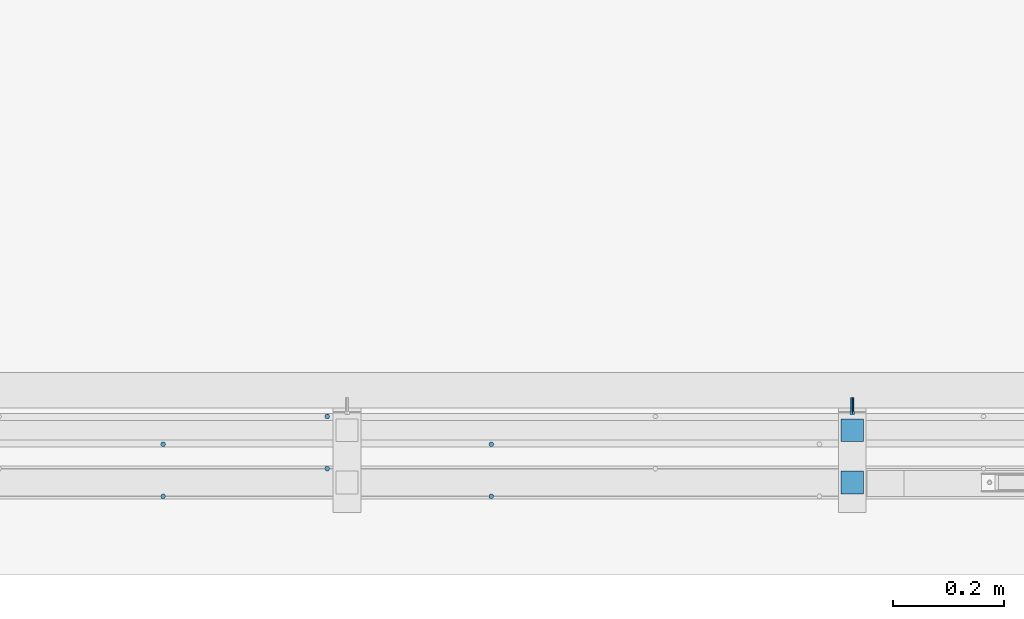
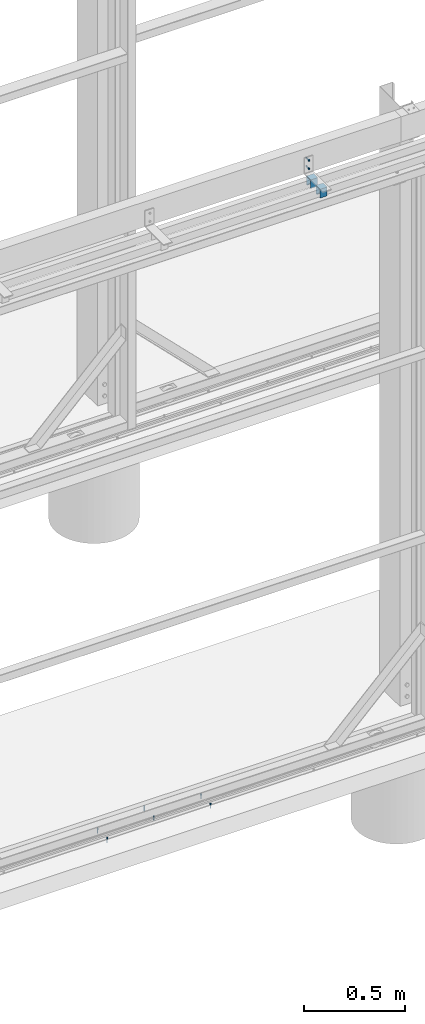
# One storey, part 43 of 91: 7 mechanical fasteners, 2 discrete accessories, 3 elements without a shape of their own.
"""IFC2X3 building model written with IfcOpenShell, lengths in millimetres."""

from ifc_helpers import new_model, si_unit, frame, origin_with_axes, origin_2d_with_axis, place, context, subcontext, project, spatial, polyline, circle, c_section, outline, extrude, source, transform, mapped, material, type_object, element, aggregate, save


model = new_model("IFC2X3")

# Units and contexts
model_context = context("Model", 3, precision=1e-05, world=origin_with_axes())
body_context = subcontext(model_context, "Body", "Model", "MODEL_VIEW")
ifc_project = project(units=[si_unit("LENGTHUNIT", "METRE", prefix="MILLI"), si_unit("AREAUNIT", "SQUARE_METRE"), si_unit("VOLUMEUNIT", "CUBIC_METRE"), si_unit("MASSUNIT", "GRAM", prefix="KILO"), si_unit("TIMEUNIT", "SECOND"), si_unit("PLANEANGLEUNIT", "RADIAN"), si_unit("SOLIDANGLEUNIT", "STERADIAN"), si_unit("THERMODYNAMICTEMPERATUREUNIT", "DEGREE_CELSIUS"), si_unit("LUMINOUSINTENSITYUNIT", "LUMEN")], contexts=[model_context])

# Site, building, storey
site_placement = place(None, origin_with_axes())
site = spatial("IfcSite", under=ifc_project, at=site_placement, Name="Undefined", CompositionType="ELEMENT")
building_placement = place(site_placement, origin_with_axes())
building = spatial("IfcBuilding", under=site, at=building_placement, Name="Undefined", CompositionType="ELEMENT")
storey_placement = place(building_placement, origin_with_axes())
storey = spatial("IfcBuildingStorey", under=building, at=storey_placement, Name="Undefined", CompositionType="ELEMENT", Elevation=0.0)

# Assembly, mechanical fastener
assembly_1_placement = place(storey_placement, origin_with_axes())
assembly_1 = element("IfcElementAssembly", 1, at=assembly_1_placement, inside=storey, Name="DOOR BRACKET", AssemblyPlace="NOTDEFINED", PredefinedType="RIGID_FRAME")
ifc_material_1 = material(Name="TEK_11TPIM")
discrete_accessory_type_1 = type_object("IfcDiscreteAccessoryType", Name="Bolt assembly")
shared_shape_1 = source(origin_with_axes(), body_context, "Body", "SweptSolid", [
    extrude(circle(Radius=3.0, at=origin_2d_with_axis()), frame((0.0, -6.0, 0.0), z_axis=(0.0, 1.0, 0.0), x_axis=(1.0, 0.0, 0.0)), (0.0, 0.0, 1.0), 6.1),
    extrude(outline(polyline([(4.61880215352, 0.0), (2.30940107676, 4.00000000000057), (-2.30940107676, 4.00000000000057), (-4.61880215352, 0.0), (-2.30940107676, -4.00000000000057), (2.30940107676, -4.00000000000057), (4.61880215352, 0.0)])), frame((0.0, -11.1000000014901, 0.0), z_axis=(0.0, 1.0, 0.0), x_axis=(1.0, 0.0, 0.0)), (0.0, 0.0, 1.0), 5.0),
    extrude(circle(Radius=3.0, at=origin_2d_with_axis()), frame((0.0, -6.10000000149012, 0.0), z_axis=(0.0, 1.0, 0.0), x_axis=(1.0, 0.0, 0.0)), (0.0, 0.0, 1.0), 25.0),
    extrude(circle(Radius=3.0, at=origin_2d_with_axis()), frame((0.0, -6.10000000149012, 0.0), z_axis=(0.0, 1.0, 0.0), x_axis=(1.0, 0.0, 0.0)), (0.0, 0.0, 1.0), 0.1),
    extrude(circle(Radius=3.0, at=origin_2d_with_axis()), frame((0.0, 0.0, 0.0), z_axis=(0.0, 1.0, 0.0), x_axis=(1.0, 0.0, 0.0)), (0.0, 0.0, 1.0), 0.1),
    extrude(outline(polyline([(3.46410161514, 0.0), (1.73205080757, 3.00000000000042), (-1.73205080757, 3.00000000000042), (-3.46410161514, 0.0), (-1.73205080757, -3.00000000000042), (1.73205080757, -3.00000000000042), (3.46410161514, 0.0)])), frame((0.0, 0.1, 0.0), z_axis=(0.0, 1.0, 0.0), x_axis=(1.0, 0.0, 0.0)), (0.0, 0.0, 1.0), 0.1),
])
mechanical_fastener_1_placement = place(assembly_1_placement, frame((-111328.34, 84752.15, 3524.0), z_axis=(1.0, 0.0, 0.0), x_axis=(0.0, 0.0, -1.0)))
mechanical_fastener_1 = element("IfcMechanicalFastener", 2, at=mechanical_fastener_1_placement, type_object=discrete_accessory_type_1, material=ifc_material_1, Name="Bolt assembly", NominalDiameter=6.0, NominalLength=25.0, context=body_context, shape_type="MappedRepresentation", body=[
    mapped(shared_shape_1, transform((0.0, 0.0, 0.0))),
    mapped(shared_shape_1, transform((50.0, 0.0, 0.0))),
])

# Assembly, mechanical fasteners
assembly_2_placement = place(storey_placement, origin_with_axes())
assembly_2 = element("IfcElementAssembly", 3, at=assembly_2_placement, inside=storey, Name="DOOR TRACK", AssemblyPlace="NOTDEFINED", PredefinedType="RIGID_FRAME")
ifc_material_2 = material(Name="TEK_10TPII")
shared_shape_2 = source(origin_with_axes(), body_context, "Body", "SweptSolid", [
    extrude(circle(Radius=4.07999992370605, at=origin_2d_with_axis()), frame((0.0, 0.0, 0.0), z_axis=(0.0, 1.0, 0.0), x_axis=(1.0, 0.0, 0.0)), (0.0, 0.0, 1.0), 3.1),
    extrude(outline(polyline([(4.61880215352, 0.0), (2.30940107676, 4.00000000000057), (-2.30940107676, 4.00000000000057), (-4.61880215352, 0.0), (-2.30940107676, -4.00000000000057), (2.30940107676, -4.00000000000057), (4.61880215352, 0.0)])), frame((0.0, -5.0, 0.0), z_axis=(0.0, 1.0, 0.0), x_axis=(1.0, 0.0, 0.0)), (0.0, 0.0, 1.0), 5.0),
    extrude(circle(Radius=3.07999992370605, at=origin_2d_with_axis()), frame((0.0, 0.0, 0.0), z_axis=(0.0, 1.0, 0.0), x_axis=(1.0, 0.0, 0.0)), (0.0, 0.0, 1.0), 25.0),
    extrude(circle(Radius=3.0, at=origin_2d_with_axis()), frame((0.0, 3.0, 0.0), z_axis=(0.0, 1.0, 0.0), x_axis=(1.0, 0.0, 0.0)), (0.0, 0.0, 1.0), 0.1),
    extrude(outline(polyline([(3.46410161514, 0.0), (1.73205080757, 3.00000000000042), (-1.73205080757, 3.00000000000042), (-3.46410161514, 0.0), (-1.73205080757, -3.00000000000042), (1.73205080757, -3.00000000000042), (3.46410161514, 0.0)])), frame((0.0, 3.10000000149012, 0.0), z_axis=(0.0, 1.0, 0.0), x_axis=(1.0, 0.0, 0.0)), (0.0, 0.0, 1.0), 0.1),
])
mechanical_fastener_2_placement = place(assembly_2_placement, frame((-111979.44, 84687.151953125, -54.0), z_axis=(0.0, 1.0, 0.0), x_axis=(1.0, 0.0, 0.0)))
mechanical_fastener_2 = element("IfcMechanicalFastener", 4, at=mechanical_fastener_2_placement, type_object=discrete_accessory_type_1, material=ifc_material_2, Name="Bolt assembly", NominalDiameter=6.15999984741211, NominalLength=25.0, context=body_context, shape_type="MappedRepresentation", body=[
    mapped(shared_shape_2, transform((0.0, 0.0, 0.0))),
])
mechanical_fastener_3_placement = place(assembly_2_placement, frame((-112275.34, 84737.151953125, -54.0), z_axis=(0.0, 1.0, 0.0), x_axis=(1.0, 0.0, 0.0)))
mechanical_fastener_3 = element("IfcMechanicalFastener", 5, at=mechanical_fastener_3_placement, type_object=discrete_accessory_type_1, material=ifc_material_2, Name="Bolt assembly", NominalDiameter=6.15999984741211, NominalLength=25.0, context=body_context, shape_type="MappedRepresentation", body=[
    mapped(shared_shape_2, transform((0.0, 0.0, 0.0))),
])
mechanical_fastener_4_placement = place(assembly_2_placement, frame((-112571.24, 84687.151953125, -54.0), z_axis=(0.0, 1.0, 0.0), x_axis=(1.0, 0.0, 0.0)))
mechanical_fastener_4 = element("IfcMechanicalFastener", 6, at=mechanical_fastener_4_placement, type_object=discrete_accessory_type_1, material=ifc_material_2, Name="Bolt assembly", NominalDiameter=6.15999984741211, NominalLength=25.0, context=body_context, shape_type="MappedRepresentation", body=[
    mapped(shared_shape_2, transform((0.0, 0.0, 0.0))),
])
aggregate(assembly_2, [mechanical_fastener_2, mechanical_fastener_3, mechanical_fastener_4])

assembly_3_placement = place(storey_placement, origin_with_axes())
assembly_3 = element("IfcElementAssembly", 7, at=assembly_3_placement, inside=storey, Name="DOOR TRACK", AssemblyPlace="NOTDEFINED", PredefinedType="RIGID_FRAME")
mechanical_fastener_5_placement = place(assembly_3_placement, frame((-111979.44, 84593.151953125, -54.0), z_axis=(0.0, 1.0, 0.0), x_axis=(1.0, 0.0, 0.0)))
mechanical_fastener_5 = element("IfcMechanicalFastener", 8, at=mechanical_fastener_5_placement, type_object=discrete_accessory_type_1, material=ifc_material_2, Name="Bolt assembly", NominalDiameter=6.15999984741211, NominalLength=25.0, context=body_context, shape_type="MappedRepresentation", body=[
    mapped(shared_shape_2, transform((0.0, 0.0, 0.0))),
])
mechanical_fastener_6_placement = place(assembly_3_placement, frame((-112275.34, 84643.151953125, -54.0), z_axis=(0.0, 1.0, 0.0), x_axis=(1.0, 0.0, 0.0)))
mechanical_fastener_6 = element("IfcMechanicalFastener", 9, at=mechanical_fastener_6_placement, type_object=discrete_accessory_type_1, material=ifc_material_2, Name="Bolt assembly", NominalDiameter=6.15999984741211, NominalLength=25.0, context=body_context, shape_type="MappedRepresentation", body=[
    mapped(shared_shape_2, transform((0.0, 0.0, 0.0))),
])
mechanical_fastener_7_placement = place(assembly_3_placement, frame((-112571.24, 84593.151953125, -54.0), z_axis=(0.0, 1.0, 0.0), x_axis=(1.0, 0.0, 0.0)))
mechanical_fastener_7 = element("IfcMechanicalFastener", 10, at=mechanical_fastener_7_placement, type_object=discrete_accessory_type_1, material=ifc_material_2, Name="Bolt assembly", NominalDiameter=6.15999984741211, NominalLength=25.0, context=body_context, shape_type="MappedRepresentation", body=[
    mapped(shared_shape_2, transform((0.0, 0.0, 0.0))),
])
aggregate(assembly_3, [mechanical_fastener_5, mechanical_fastener_6, mechanical_fastener_7])

# Discrete accessory
ifc_material_3 = material(Name="STEEL/250")
discrete_accessory_type_2 = type_object("IfcDiscreteAccessoryType", Name="SLIDING DOOR BRACKET")
discrete_accessory_1_placement = place(assembly_1_placement, frame((-111348.34, 84618.15, 3417.5), z_axis=(0.0, -1.0, 0.0), x_axis=(1.0, 0.0, 0.0)))
discrete_accessory_1 = element("IfcDiscreteAccessory", 11, at=discrete_accessory_1_placement, type_object=discrete_accessory_type_2, material=ifc_material_3, Name="SLIDING DOOR BRACKET", ObjectType="CC41-1.5-7-53", context=body_context, shape_type="SweptSolid", body=[
    extrude(c_section(Depth=41.0, Width=53.0, WallThickness=1.5, Girth=7.0, at=origin_2d_with_axis()), frame((40.0, 0.0, 0.0), z_axis=(-1.0, 0.0, 0.0), x_axis=(0.0, -1.0, 0.0)), (0.0, 0.0, 1.0), 40.0),
])

discrete_accessory_2_placement = place(assembly_1_placement, frame((-111348.34, 84712.15, 3417.5), z_axis=(0.0, -1.0, 0.0), x_axis=(1.0, 0.0, 0.0)))
discrete_accessory_2 = element("IfcDiscreteAccessory", 12, at=discrete_accessory_2_placement, type_object=discrete_accessory_type_2, material=ifc_material_3, Name="SLIDING DOOR BRACKET", ObjectType="CC41-1.5-7-53", context=body_context, shape_type="SweptSolid", body=[
    extrude(c_section(Depth=41.0, Width=53.0, WallThickness=1.5, Girth=7.0, at=origin_2d_with_axis()), frame((40.0, 0.0, 0.0), z_axis=(-1.0, 0.0, 0.0), x_axis=(0.0, -1.0, 0.0)), (0.0, 0.0, 1.0), 40.0),
])

aggregate(assembly_1, [mechanical_fastener_1, discrete_accessory_1, discrete_accessory_2])

save(model, "model.ifc")
